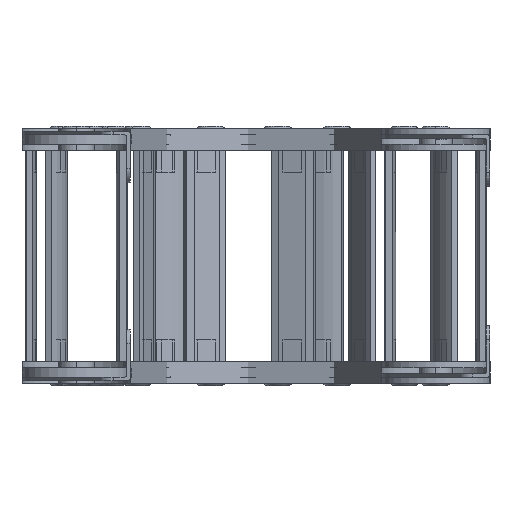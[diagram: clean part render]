
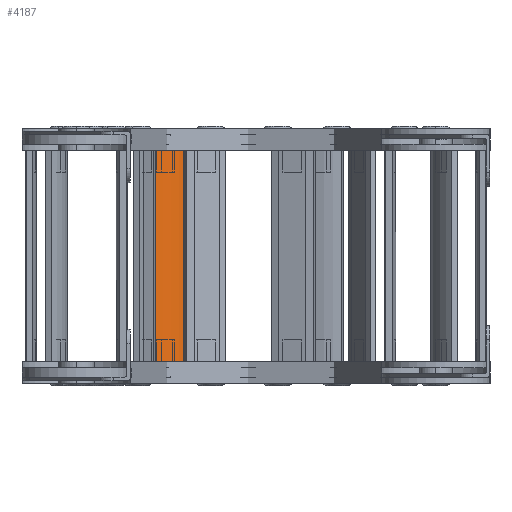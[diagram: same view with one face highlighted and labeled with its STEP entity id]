
A CAD part, left-side view. The second image highlights one B-rep face of the part: STEP entity #4187.
In plain terms, the highlighted cylindrical face has radius 52 mm (diameter 104 mm), a partial arc.
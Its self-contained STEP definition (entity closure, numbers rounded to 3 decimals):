
#4001=CARTESIAN_POINT('',(38.75,85.,0.));
#4002=DIRECTION('',(0.,0.,-1.));
#4003=DIRECTION('',(0.346,-0.938,0.));
#4004=AXIS2_PLACEMENT_3D('',#4001,#4002,#4003);
#4044=DIRECTION('',(0.,0.,-1.));
#4045=VECTOR('',#4044,175.4);
#4046=CARTESIAN_POINT('',(56.75,36.215,0.));
#4047=LINE('',#4046,#4045);
#4051=DIRECTION('',(0.,0.,1.));
#4052=VECTOR('',#4051,175.4);
#4053=CARTESIAN_POINT('',(20.75,36.215,-175.4));
#4054=LINE('',#4053,#4052);
#4079=CARTESIAN_POINT('',(38.75,85.,-175.4));
#4080=DIRECTION('',(0.,0.,1.));
#4081=DIRECTION('',(-0.346,-0.938,0.));
#4082=AXIS2_PLACEMENT_3D('',#4079,#4080,#4081);
#4130=CARTESIAN_POINT('',(56.75,36.215,-175.4));
#4132=VERTEX_POINT('',#4130);
#4133=CARTESIAN_POINT('',(20.75,36.215,-175.4));
#4134=VERTEX_POINT('',#4133);
#4141=CARTESIAN_POINT('',(56.75,36.215,0.));
#4142=VERTEX_POINT('',#4141);
#4145=CARTESIAN_POINT('',(20.75,36.215,0.));
#4146=VERTEX_POINT('',#4145);
#4173=CARTESIAN_POINT('',(38.75,85.,-100.4));
#4174=DIRECTION('',(0.,0.,1.));
#4175=DIRECTION('',(1.,0.,0.));
#4176=AXIS2_PLACEMENT_3D('',#4173,#4174,#4175);
#4177=CYLINDRICAL_SURFACE('',#4176,52.);
#4179=ORIENTED_EDGE('',*,*,#4178,.T.);
#4181=ORIENTED_EDGE('',*,*,#4180,.F.);
#4183=ORIENTED_EDGE('',*,*,#4182,.T.);
#4184=ORIENTED_EDGE('',*,*,#4158,.F.);
#4185=EDGE_LOOP('',(#4179,#4181,#4183,#4184));
#4186=FACE_OUTER_BOUND('',#4185,.F.);
#4187=ADVANCED_FACE('',(#4186),#4177,.T.);
#4005=CIRCLE('',#4004,52.);
#4083=CIRCLE('',#4082,52.);
#4158=EDGE_CURVE('',#4142,#4146,#4005,.T.);
#4178=EDGE_CURVE('',#4142,#4132,#4047,.T.);
#4180=EDGE_CURVE('',#4134,#4132,#4083,.T.);
#4182=EDGE_CURVE('',#4134,#4146,#4054,.T.);
